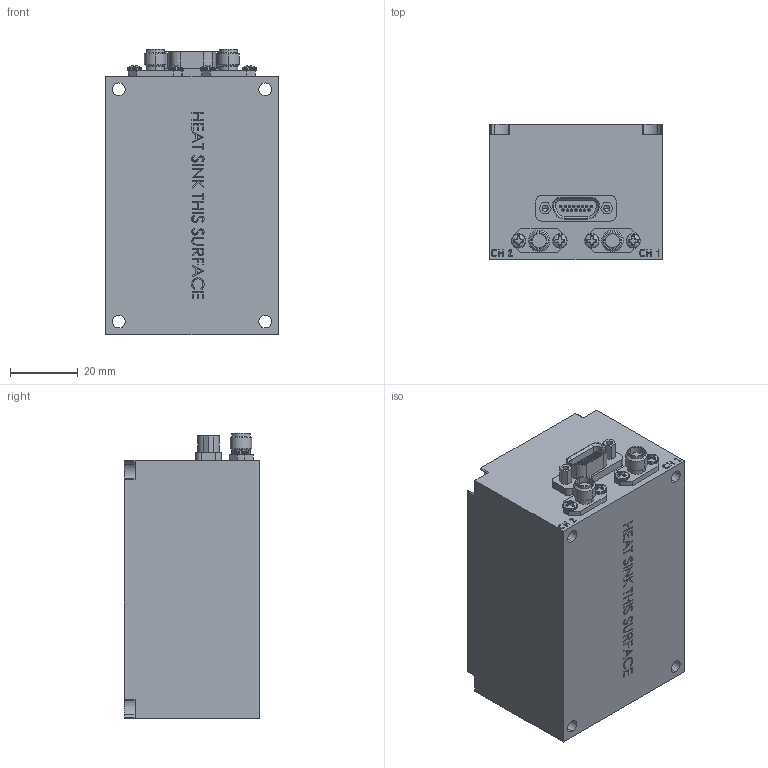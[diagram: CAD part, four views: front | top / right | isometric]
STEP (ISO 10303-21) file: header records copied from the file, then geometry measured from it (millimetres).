
FILE_DESCRIPTION (( 'STEP AP214' ), '1' );
FILE_NAME ('09AK.STEP', '2017-08-18T18:23:59', ( '' ), ( '' ), 'SwSTEP 2.0', 'SolidWorks 2016', '' );
FILE_SCHEMA (( 'AUTOMOTIVE_DESIGN' ));
Length unit declared in the file: inch
Products named in the file (1): 09AK
Bounding box: 50.8 x 40 x 84.14 mm (x, y, z)
Volume: 154076.7 mm3; surface area: 22040 mm2
Topology: 10 solids, 10 shells, 820 faces, 2129 edges, 1406 vertices
Faces by surface type: plane 418, cylinder 213, bspline 124, cone 41, torus 16, sphere 8
Entity records: 41028 total; most frequent: CARTESIAN_POINT 10748, ORIENTED_EDGE 4258, DIRECTION 3659, EDGE_CURVE 2129, VERTEX_POINT 1406, VECTOR 1241, LINE 1241, AXIS2_PLACEMENT_3D 1209
